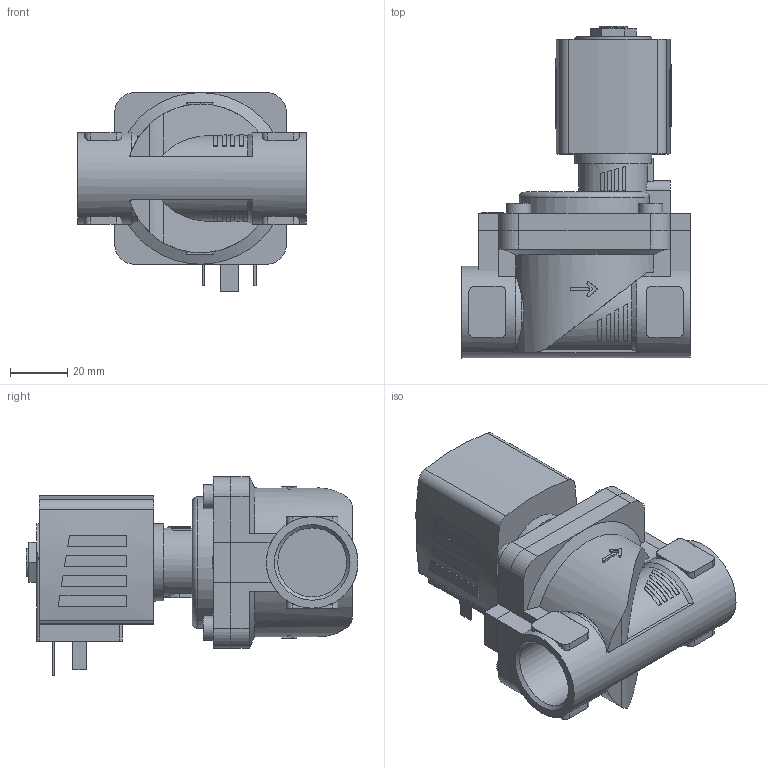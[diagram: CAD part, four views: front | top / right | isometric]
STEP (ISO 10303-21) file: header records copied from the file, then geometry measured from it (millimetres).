
FILE_DESCRIPTION(/* description */ ('STEP AP214'),/* implementation_level */ '2;1');
FILE_NAME(/* name */ '6281-289304-2_2-Way_Solenoid_Valve__Servo-assisted__General_Purpose',/* time_stamp */ '2024-08-20T17:34:51+02:00',/* author */ ('License CC BY-ND 4.0'),/* organization */ ('CADENAS'),/* preprocessor_version */ 'ST-DEVELOPER v19.3',/* originating_system */ 'PARTsolutions',/* authorisation */ ' ');
FILE_SCHEMA (('AUTOMOTIVE_DESIGN {1 0 10303 214 3 1 1}'));
Length unit declared in the file: millimetre
Products named in the file (4): 6281-289304-2/2-Way Solenoid Valve, Servo-assisted, General Purpose; 5281ev200VA2/2-Wege-Magnetventil mit Servomembran-Deckel   ; 6213-20G3/4VA-Gehaeuse-; AC10ex-6NA38-Plan-Coil
Assembly tree (3 placements, depth 2):
  6281-289304-2/2-Way Solenoid Valve, Servo-assisted, General Purpose
    5281ev200VA2/2-Wege-Magnetventil mit Servomembran-Deckel   
    6213-20G3/4VA-Gehaeuse-
    AC10ex-6NA38-Plan-Coil
Bounding box: 80 x 116 x 69.5 mm (x, y, z)
Volume: 219203.9 mm3; surface area: 44283.8 mm2
Topology: 3 solids, 3 shells, 341 faces, 860 edges, 566 vertices
Faces by surface type: plane 235, cylinder 88, cone 17, torus 1
Full cylindrical faces by diameter (mm): 2.013 x1, 8.5 x4, 9.74 x1, 24.117 x2, 27 x1, 32 x1
Entity records: 11480 total; most frequent: CARTESIAN_POINT 2005, DIRECTION 1710, ORIENTED_EDGE 1670, EDGE_CURVE 835, AXIS2_PLACEMENT_3D 602, VERTEX_POINT 557, LINE 506, VECTOR 506
